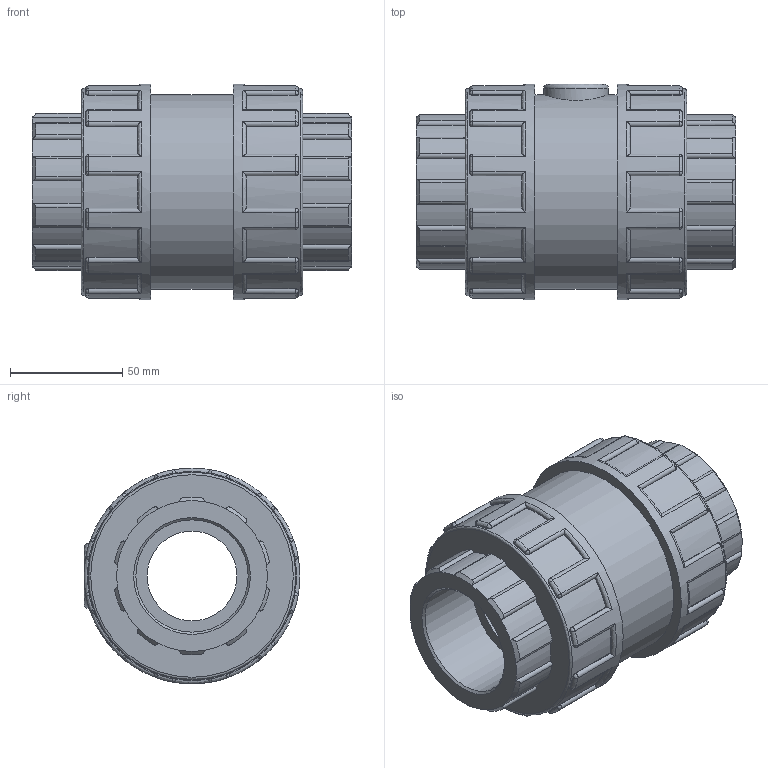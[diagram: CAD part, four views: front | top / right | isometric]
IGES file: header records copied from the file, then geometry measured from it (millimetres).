
Global section: file name: 116400050.ipt; native system: Autodesk Inventor 2015; preprocessor: unknown; author: KIM; date: 20171207.170651; units: millimetre
Bounding box: 142 x 96 x 96 mm (x, y, z)
Volume: 585128.6 mm3; surface area: 73661.5 mm2
Topology: 1 solids, 1 shells, 411 faces, 1033 edges, 630 vertices
Faces by surface type: cylinder 182, plane 105, revolution 56, sphere 48, cone 20
Full cylindrical faces by diameter (mm): 28.8 x1, 86.4 x1, 92.16 x2, 96 x2
